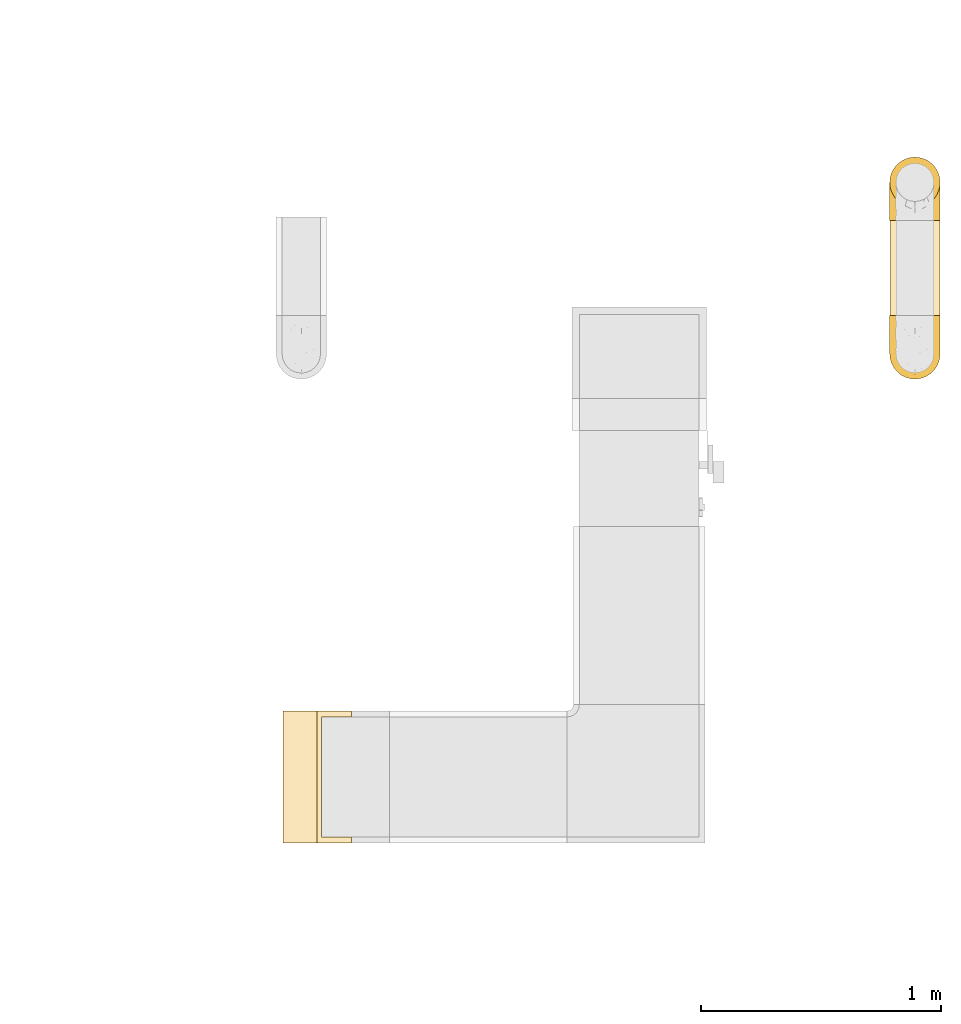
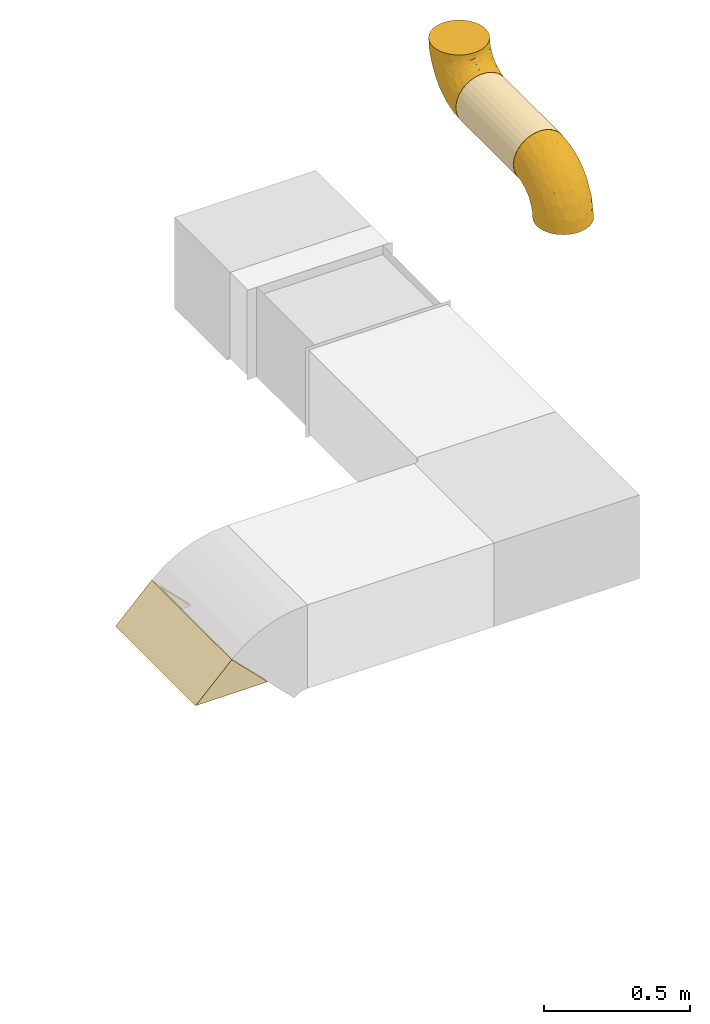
# One storey, part 4 of 14: 4 coverings.
"""IFC2X3 building model written with IfcOpenShell, lengths in millimetres."""

from ifc_helpers import new_model, entity, si_unit, converted_unit, derived_unit, direction, frame, origin_with_axes, origin_2d_with_axis, place, context, subcontext, project, spatial, hollow_circle, extrude, open_shell, faceted_brep, surface_model, source, transform, mapped, element, save


model = new_model("IFC2X3")

# Units and contexts
model_context = context("Model", 3, precision=0.01, world=frame((0.0, 4.29681676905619e-09, 0.0)), true_north=direction((4.01073788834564e-13, 1.0)))
plan_context = context("Plan", 3, precision=0.01, world=frame((0.0, 4.29681676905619e-09, 0.0)), true_north=direction((4.01073788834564e-13, 1.0)))
body_context = subcontext(model_context, "Body", "Model", "MODEL_VIEW")
ifc_project = project(units=[converted_unit("PLANEANGLEUNIT", "DEGREE", entity("IfcPositiveLengthMeasure", 0.0174532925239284), si_unit("PLANEANGLEUNIT", "RADIAN"), dimensions=[0, 0, 0, 0, 0, 0, 0]), si_unit("AREAUNIT", "SQUARE_METRE"), si_unit("LENGTHUNIT", "METRE", prefix="MILLI"), si_unit("MASSUNIT", "GRAM", prefix="KILO"), si_unit("POWERUNIT", "WATT"), si_unit("PRESSUREUNIT", "PASCAL", prefix="KILO"), si_unit("FORCEUNIT", "NEWTON", prefix="KILO"), si_unit("ELECTRICVOLTAGEUNIT", "VOLT"), si_unit("ELECTRICCURRENTUNIT", "AMPERE"), si_unit("THERMODYNAMICTEMPERATUREUNIT", "DEGREE_CELSIUS"), si_unit("TIMEUNIT", "SECOND"), si_unit("VOLUMEUNIT", "CUBIC_METRE"), derived_unit("LINEARVELOCITYUNIT", [(si_unit("LENGTHUNIT", "METRE"), 1), (si_unit("TIMEUNIT", "SECOND"), -1)]), derived_unit("VOLUMETRICFLOWRATEUNIT", [(si_unit("VOLUMEUNIT", "CUBIC_METRE"), 1), (si_unit("TIMEUNIT", "SECOND"), -1)]), derived_unit("THERMALTRANSMITTANCEUNIT", [(si_unit("POWERUNIT", "WATT"), 1), (si_unit("THERMODYNAMICTEMPERATUREUNIT", "KELVIN"), -1), (si_unit("AREAUNIT", "SQUARE_METRE"), -1)]), derived_unit("SOUNDPRESSUREUNIT", [(si_unit("PRESSUREUNIT", "PASCAL"), 1)])], contexts=[model_context, plan_context])

# Site, building, storey
site_placement = place(None, frame((0.0, -4.29681676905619e-09, 0.0), z_axis=(0.0, 0.0, 1.0), x_axis=(1.0, 0.0, 0.0)))
site = spatial("IfcSite", under=ifc_project, at=site_placement, CompositionType="ELEMENT")
building_placement = place(site_placement, frame((0.0, 4.29681676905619e-09, 0.0), z_axis=(0.0, 0.0, 1.0), x_axis=(1.0, 0.0, 0.0)))
building = spatial("IfcBuilding", under=site, at=building_placement, Name="mc-building", CompositionType="ELEMENT")
storey_placement = place(building_placement, frame((0.0, 0.0, 205200.0), z_axis=(0.0, 0.0, 1.0), x_axis=(1.0, 0.0, 0.0)))
storey = spatial("IfcBuildingStorey", under=building, at=storey_placement, Name="Nivå D + 1,2 m", CompositionType="ELEMENT", Elevation=205200.0)

# Coverings
shared_shape_1 = source(origin_with_axes(), body_context, "Body", "SweptSolid", [
    extrude(hollow_circle(Radius=105.0, WallThickness=25.0, at=origin_2d_with_axis()), frame((0.0, 0.0, 0.0), z_axis=(1.0, 0.0, 0.0), x_axis=(0.0, 1.0, 0.0)), (0.0, 0.0, 1.0), 395.0),
])
covering_1_placement = place(storey_placement, frame((348291.86984, 465751.0, 4050.0), z_axis=(0.0, 0.0, 1.0), x_axis=(0.0, -1.0, 0.0)))
element("IfcCovering", 1, at=covering_1_placement, inside=storey, Name="B-EI60", PredefinedType="INSULATION", context=body_context, shape_type="MappedRepresentation", body=[
    mapped(shared_shape_1, transform((0.0, 0.0, 0.0), scale=1.0)),
])
shared_shape_2 = source(origin_with_axes(), body_context, "Body", "SurfaceModel", [
    surface_model("IfcShellBasedSurfaceModel", [(80.43282, 160.0, 67.4949), (90.93096, 160.0, 52.50296), (98.66637, 160.0, 35.91583), (-80.43616, 160.0, 67.49092), (-67.4949, 160.0, 80.43282), (-90.93355, 160.0, 52.49848), (-80.43282, 160.0, -67.4949), (-90.93096, 160.0, -52.50296), (-98.66637, 160.0, -35.91583), (-160.0, 74.24621, -74.24621), (-160.0, 105.0, 0.0), (-160.0, 101.42222, -27.176), (-160.0, 90.93267, -52.5), (-160.0, 101.42222, 27.176), (-160.0, 74.24621, 74.24621), (-160.0, 90.93267, 52.5), (-160.0, 27.176, 101.42222), (-160.0, 52.5, 90.93267), (-160.0, -74.24621, 74.24621), (-160.0, -101.42222, 27.176), (-160.0, -90.93267, 52.5), (-86.77939, -90.83203, 27.62615), (-108.30107, -99.9081, 0.0), (-58.58889, -84.82808, 0.0), (-160.0, -105.0, 0.0), (31.61963, 0.61451, 55.3243), (2.15123, -40.14693, 38.7491), (41.01717, -4.0081, 33.72929), (68.782, 58.01341, 53.26876), (42.5007, 35.24486, 70.46355), (10.42896, -40.73723, 18.66524), (-160.0, -52.5, 90.93267), (-122.57202, -63.94157, 80.80593), (-12.77389, -60.33945, 0.0), (27.3833, -27.3833, 0.0), (53.3012, 81.39518, 80.57607), (25.18839, 41.51415, 86.2733), (-27.85296, -66.69793, 23.21289), (-3.94869, 33.1736, 96.6264), (-10.61338, 0.88896, 87.36154), (60.33945, 12.77389, 0.0), (-33.30447, 2.22709, 96.08218), (-64.8935, -33.44615, 89.09515), (-75.06039, -54.87531, 77.30635), (-102.05161, -79.23207, 60.02596), (90.18061, 102.94776, 41.14349), (76.18076, 47.95142, 27.21409), (24.77586, 93.9877, 98.5575), (-111.65311, -40.18811, 94.41504), (-160.0, -27.176, 101.42222), (-46.86291, 46.86291, 105.0), (-80.0, 21.43593, 105.0), (-46.86575, 17.66698, 102.70805), (52.49848, 160.0, 90.93355), (35.91101, 160.0, 98.66813), (-115.56379, -21.49709, 101.50699), (-160.0, 0.0, 105.0), (-71.43118, -14.86908, 98.62859), (-85.76355, -0.84717, 103.58961), (103.40402, 160.0, 18.23758), (98.49705, 112.79001, 21.51201), (99.9081, 108.30107, 0.0), (84.82808, 58.58889, 0.0), (1.99266, 84.09643, 103.28614), (18.23247, 160.0, 103.40492), (-5.45187, 118.58896, 105.0), (72.62756, 112.75538, 70.97794), (-21.43593, 80.0, 105.0), (-21.61029, 49.95505, 103.64574), (105.0, 160.0, 0.0), (67.49092, 160.0, 80.43616), (0.0, 160.0, 105.0), (-118.58896, 5.45187, 105.0), (-14.25832, -38.68897, 59.65143), (7.92185, -5.45618, 72.72142), (-31.70628, -31.57649, 77.75213), (-43.24772, -66.17703, 45.69984), (-53.99583, -59.83203, 62.92615), (-55.21256, 111.13303, 95.16076), (-53.92063, 78.60244, 101.6555), (-37.39256, 100.94977, 102.24061), (-133.54849, 22.33017, 103.11394), (-106.05872, 29.7742, 103.25842), (-75.82706, 91.25175, 91.60397), (-82.40746, 110.91109, 79.85017), (-99.06949, 99.66039, 74.24437), (-124.15138, 116.31833, 17.73447), (-112.76504, 127.27364, 22.61524), (-121.10912, 121.10912, 0.0), (-51.40632, 135.85797, 92.9943), (-31.12581, 127.8665, 101.42111), (-81.01995, 44.58495, 103.04874), (-87.10885, 65.0064, 96.97359), (-122.97407, 46.0461, 97.00735), (-142.68086, 105.80511, 19.85839), (-143.64683, 99.16706, 40.18176), (-108.8908, 118.22504, 46.80649), (-113.70433, 104.50778, 57.68977), (-146.57956, 84.48537, 63.91995), (-18.23758, 160.0, 103.40402), (-137.26493, 66.64855, 83.3021), (-132.22606, 109.2931, 24.15031), (-122.6803, 110.7398, 37.17389), (-79.37771, 130.78625, 74.24437), (-111.68491, 77.36844, 83.0246), (-35.91583, 160.0, 98.66637), (-94.70904, 145.7871, 48.39929), (-52.50296, 160.0, 90.93096), (-131.41269, 102.22856, 43.55039), (-147.89083, 107.40866, 0.0), (-94.20848, 122.13386, 62.88018), (-103.11738, 146.01079, 27.17514), (-98.66813, 160.0, 35.91101), (-101.03955, 133.02761, 44.37358), (-103.40492, 160.0, 18.23247), (-107.09331, 149.4762, 0.0), (-130.47673, 89.21198, 63.91994), (-94.20008, 84.39492, 86.32712), (-138.95241, 109.18662, 0.0), (-130.03077, 115.14788, 0.0), (-106.86958, 135.94857, 26.19801), (-115.14788, 130.03077, 0.0), (-105.0, 160.0, 0.0), (-109.18662, 138.95241, 0.0), (-80.0, 21.43593, -105.0), (-118.58896, 5.45187, -105.0), (-106.05871, 29.7742, -103.25842), (-142.68087, 105.80511, -19.85836), (-101.03904, 133.02349, -44.37826), (-94.70587, 145.78416, -48.40647), (-94.20354, 122.1371, -62.88374), (-108.01098, 136.94827, -19.73025), (-112.76496, 127.2737, -22.61538), (-143.64666, 99.16709, -40.18176), (-131.41273, 102.22882, -43.54985), (-130.47615, 89.21221, -63.91995), (-146.57923, 84.48543, -63.91995), (-132.2261, 109.29318, -24.14995), (-111.68602, 77.36807, -83.02442), (-137.26493, 66.64855, -83.3021), (-37.38664, 100.94789, -102.24204), (-5.45187, 118.58896, -105.0), (-21.43593, 80.0, -105.0), (-160.0, 0.0, -105.0), (-160.0, 27.176, -101.42222), (-133.54849, 22.33017, -103.11394), (-124.15141, 116.31835, -17.73428), (-122.68042, 110.73988, -37.17355), (-160.0, 52.5, -90.93267), (-122.97407, 46.0461, -97.00735), (-51.39934, 135.85922, -92.99772), (-67.49092, 160.0, -80.43616), (-52.49848, 160.0, -90.93355), (-55.20633, 111.13534, -95.16294), (-53.92062, 78.60243, -101.65551), (-75.82964, 91.25637, -91.60121), (-103.40402, 160.0, -18.23758), (-108.89358, 118.22523, -46.80193), (-79.37456, 130.78413, -74.24805), (-103.11642, 146.00912, -27.18012), (-81.02084, 44.58327, -103.04892), (-46.86291, 46.86291, -105.0), (-35.91101, 160.0, -98.66813), (-31.12039, 127.8676, -101.42244), (-87.10739, 65.0045, -96.97458), (0.0, 160.0, -105.0), (-18.23247, 160.0, -103.40492), (-82.40976, 110.91196, -79.84811), (-113.70391, 104.50625, -57.69198), (-93.56062, 81.99506, -87.83314), (-99.06686, 99.6578, -74.24805), (-102.05188, -79.23212, -60.02598), (-160.0, -90.93267, -52.5), (-160.0, -74.24621, -74.24621), (8.88008, 77.26458, -101.1819), (44.65348, 115.34453, -92.61664), (34.35065, 68.12236, -89.45891), (52.50296, 160.0, -90.93096), (67.4949, 160.0, -80.43282), (-80.19877, -5.90357, -102.19719), (-43.05681, 22.33841, -102.95383), (-33.05933, 3.8334, -96.55755), (-118.07644, -21.90722, -101.55495), (-160.0, -27.176, -101.42222), (-160.0, -13.588, -103.21111), (-122.57254, -63.94161, -80.80597), (-10.50689, 37.73529, -99.63838), (5.93859, 20.05279, -88.13417), (-86.77943, -90.83197, -27.62637), (-160.0, -101.42222, -27.176), (80.43616, 160.0, -67.49092), (71.01151, 102.52435, -70.23213), (76.18354, 47.95612, -27.21221), (-77.25171, -31.98183, -92.83606), (-75.06127, -54.87558, -77.30642), (-30.31175, -20.21608, -84.71956), (7.93056, -5.45076, -72.71893), (48.10796, 49.71741, -72.94688), (39.19137, 12.40182, -57.40861), (-43.2479, -66.17685, -45.70035), (-0.47558, -46.42299, -29.12353), (-40.64699, -73.20115, -25.04519), (-160.0, -52.5, -90.93267), (18.23758, 160.0, -103.40402), (-116.58747, -47.44669, -91.25341), (41.01729, -4.00822, -33.72879), (35.91583, 160.0, -98.66637), (90.18288, 102.94926, -41.13909), (-29.30622, -39.54144, -69.69707), (68.7858, 58.01643, -53.26496), (98.4986, 112.79609, -21.50993), (90.93355, 160.0, -52.49848), (98.66813, 160.0, -35.91101), (0.80626, -32.00037, -53.33542), (103.40492, 160.0, -18.23247), (-60.25635, -63.13556, -62.44399)], [open_shell([[[0, 1, 2]], [[3, 4, 5]], [[6, 7, 8]], [[9, 10, 11]], [[9, 11, 12]], [[13, 14, 15]], [[13, 10, 14]], [[14, 16, 17]], [[18, 19, 20]], [[21, 22, 23]], [[22, 19, 24]], [[25, 26, 27]], [[28, 29, 25]], [[26, 30, 27]], [[31, 18, 32]], [[33, 34, 30]], [[35, 36, 29]], [[21, 20, 19]], [[33, 37, 23]], [[36, 38, 39]], [[27, 34, 40]], [[41, 42, 39]], [[43, 32, 44]], [[45, 28, 46]], [[47, 38, 36]], [[31, 48, 49]], [[50, 51, 52]], [[47, 53, 54]], [[49, 55, 56]], [[48, 42, 57]], [[57, 58, 55]], [[58, 57, 52]], [[59, 60, 61]], [[62, 46, 40]], [[63, 64, 65]], [[53, 47, 35]], [[20, 44, 18]], [[2, 1, 45]], [[45, 1, 66]], [[38, 47, 63]], [[45, 60, 2]], [[45, 66, 28]], [[0, 66, 1]], [[67, 50, 68]], [[61, 69, 59]], [[46, 62, 60]], [[70, 53, 66]], [[65, 64, 71]], [[47, 64, 63]], [[72, 58, 51]], [[73, 74, 75]], [[48, 57, 55]], [[67, 63, 65]], [[38, 63, 68]], [[68, 50, 52]], [[19, 22, 21]], [[54, 64, 47]], [[41, 52, 57]], [[0, 70, 66]], [[66, 53, 35]], [[21, 76, 44]], [[35, 28, 66]], [[61, 60, 62]], [[28, 27, 46]], [[75, 43, 77]], [[40, 46, 27]], [[21, 44, 20]], [[77, 44, 76]], [[32, 48, 31]], [[42, 48, 43]], [[43, 75, 42]], [[75, 39, 42]], [[73, 77, 76]], [[39, 75, 74]], [[26, 73, 76]], [[73, 26, 25]], [[74, 29, 36]], [[39, 38, 41]], [[74, 36, 39]], [[47, 36, 35]], [[37, 26, 76]], [[26, 37, 30]], [[76, 21, 37]], [[23, 37, 21]], [[25, 29, 74]], [[28, 35, 29]], [[73, 25, 74]], [[28, 25, 27]], [[33, 30, 37]], [[27, 30, 34]], [[75, 77, 73]], [[44, 77, 43]], [[52, 41, 38]], [[42, 41, 57]], [[51, 58, 52]], [[72, 56, 55]], [[55, 58, 72]], [[48, 55, 49]], [[38, 68, 52]], [[67, 68, 63]], [[2, 60, 59]], [[46, 60, 45]], [[44, 32, 18]], [[48, 32, 43]], [[78, 79, 80]], [[56, 72, 81]], [[51, 82, 72]], [[83, 84, 85]], [[86, 87, 88]], [[89, 78, 90]], [[82, 91, 92]], [[93, 82, 92]], [[79, 50, 67]], [[94, 13, 95]], [[85, 96, 97]], [[82, 81, 72]], [[98, 95, 15]], [[95, 13, 15]], [[17, 16, 93]], [[65, 99, 90]], [[15, 14, 98]], [[100, 17, 93]], [[86, 101, 102]], [[4, 3, 103]], [[104, 93, 92]], [[89, 90, 105]], [[14, 17, 100]], [[99, 105, 90]], [[5, 106, 3]], [[89, 4, 103]], [[105, 107, 89]], [[71, 99, 65]], [[108, 101, 94]], [[13, 94, 109]], [[110, 84, 103]], [[111, 106, 112]], [[3, 106, 103]], [[90, 78, 80]], [[87, 86, 102]], [[106, 111, 113]], [[83, 92, 79]], [[114, 115, 111]], [[78, 84, 83]], [[100, 104, 116]], [[112, 114, 111]], [[108, 102, 101]], [[97, 104, 85]], [[83, 79, 78]], [[90, 80, 65]], [[91, 79, 92]], [[87, 96, 113]], [[98, 100, 116]], [[93, 104, 100]], [[117, 92, 83]], [[84, 78, 103]], [[104, 117, 85]], [[109, 94, 118]], [[109, 10, 13]], [[86, 88, 119]], [[119, 118, 101]], [[94, 101, 118]], [[102, 96, 87]], [[111, 120, 113]], [[120, 121, 87]], [[119, 101, 86]], [[108, 94, 95]], [[95, 116, 108]], [[97, 108, 116]], [[97, 96, 102]], [[85, 84, 110]], [[108, 97, 102]], [[104, 97, 116]], [[4, 89, 107]], [[103, 78, 89]], [[106, 113, 110]], [[112, 106, 5]], [[82, 51, 91]], [[81, 93, 16]], [[51, 50, 91]], [[79, 91, 50]], [[93, 81, 82]], [[56, 81, 16]], [[100, 98, 14]], [[95, 98, 116]], [[79, 67, 80]], [[65, 80, 67]], [[115, 114, 122]], [[115, 123, 111]], [[106, 110, 103]], [[113, 96, 110]], [[85, 110, 96]], [[92, 117, 104]], [[83, 85, 117]], [[123, 120, 111]], [[87, 113, 120]], [[121, 120, 123]], [[121, 88, 87]], [[124, 125, 126]], [[118, 127, 109]], [[128, 129, 130]], [[131, 128, 132]], [[133, 127, 134]], [[133, 135, 136]], [[137, 118, 119]], [[138, 139, 135]], [[140, 141, 142]], [[9, 12, 136]], [[143, 144, 145]], [[146, 132, 147]], [[148, 9, 139]], [[144, 148, 149]], [[150, 151, 152]], [[126, 145, 149]], [[153, 154, 155]], [[115, 122, 156]], [[149, 139, 138]], [[157, 147, 132]], [[130, 129, 158]], [[136, 139, 9]], [[129, 128, 159]], [[7, 129, 8]], [[126, 160, 124]], [[6, 151, 158]], [[129, 6, 158]], [[115, 156, 159]], [[154, 142, 161]], [[157, 132, 128]], [[127, 137, 134]], [[152, 162, 150]], [[140, 154, 153]], [[153, 163, 140]], [[162, 163, 150]], [[160, 126, 164]], [[163, 153, 150]], [[133, 12, 11]], [[165, 141, 166]], [[11, 109, 127]], [[166, 141, 163]], [[166, 163, 162]], [[153, 155, 167]], [[148, 139, 149]], [[160, 154, 161]], [[159, 156, 8]], [[155, 154, 164]], [[168, 147, 157]], [[168, 138, 135]], [[169, 170, 155]], [[149, 138, 164]], [[169, 155, 164]], [[167, 155, 170]], [[11, 10, 109]], [[146, 137, 119]], [[11, 127, 133]], [[146, 88, 132]], [[88, 146, 119]], [[137, 146, 147]], [[132, 88, 121]], [[131, 123, 115]], [[137, 147, 134]], [[137, 127, 118]], [[168, 134, 147]], [[135, 133, 134]], [[130, 158, 167]], [[168, 157, 170]], [[138, 168, 170]], [[134, 168, 135]], [[8, 129, 159]], [[129, 7, 6]], [[153, 158, 150]], [[151, 150, 158]], [[145, 126, 125]], [[164, 126, 149]], [[154, 160, 164]], [[161, 124, 160]], [[143, 145, 125]], [[149, 145, 144]], [[133, 136, 12]], [[139, 136, 135]], [[141, 140, 163]], [[142, 154, 140]], [[131, 115, 159]], [[164, 138, 169]], [[170, 169, 138]], [[130, 170, 157]], [[153, 167, 158]], [[170, 130, 167]], [[157, 128, 130]], [[128, 131, 159]], [[131, 121, 123]], [[121, 131, 132]], [[171, 172, 173]], [[174, 175, 176]], [[175, 177, 178]], [[179, 180, 181]], [[182, 183, 184]], [[173, 185, 171]], [[174, 186, 142]], [[181, 180, 186]], [[176, 187, 186]], [[124, 161, 180]], [[172, 188, 189]], [[178, 190, 191]], [[22, 24, 189]], [[40, 192, 62]], [[179, 193, 182]], [[171, 188, 172]], [[194, 193, 195]], [[196, 197, 198]], [[23, 22, 188]], [[199, 200, 201]], [[187, 196, 195]], [[202, 185, 173]], [[188, 199, 201]], [[203, 174, 141]], [[174, 142, 141]], [[194, 185, 204]], [[192, 40, 205]], [[124, 179, 125]], [[141, 165, 203]], [[203, 206, 175]], [[175, 178, 191]], [[181, 195, 193]], [[190, 207, 191]], [[204, 183, 182]], [[194, 195, 208]], [[174, 203, 175]], [[184, 143, 125]], [[207, 192, 209]], [[192, 207, 210]], [[34, 205, 40]], [[207, 211, 212]], [[199, 213, 200]], [[191, 197, 176]], [[211, 207, 190]], [[61, 210, 214]], [[210, 62, 192]], [[69, 61, 214]], [[198, 213, 196]], [[210, 212, 214]], [[209, 191, 207]], [[197, 191, 209]], [[193, 179, 181]], [[191, 176, 175]], [[177, 175, 206]], [[22, 189, 188]], [[200, 34, 33]], [[205, 209, 192]], [[208, 215, 194]], [[188, 171, 199]], [[198, 197, 209]], [[187, 197, 196]], [[209, 205, 198]], [[205, 200, 213]], [[205, 213, 198]], [[215, 208, 213]], [[34, 200, 205]], [[33, 23, 201]], [[187, 195, 181]], [[195, 196, 208]], [[187, 181, 186]], [[187, 176, 197]], [[196, 213, 208]], [[215, 213, 199]], [[199, 171, 215]], [[171, 194, 215]], [[124, 180, 179]], [[180, 161, 142]], [[142, 186, 180]], [[186, 174, 176]], [[33, 201, 200]], [[23, 188, 201]], [[210, 61, 62]], [[212, 210, 207]], [[204, 185, 202]], [[171, 185, 194]], [[183, 204, 202]], [[194, 204, 193]], [[125, 179, 182]], [[184, 125, 182]], [[204, 182, 193]], [[54, 53, 64]], [[64, 99, 71]], [[64, 53, 0]], [[2, 59, 0]], [[64, 0, 99]], [[53, 70, 0]], [[99, 0, 212]], [[105, 99, 4]], [[4, 107, 105]], [[99, 112, 4]], [[112, 122, 114]], [[5, 4, 112]], [[99, 212, 112]], [[112, 156, 122]], [[0, 59, 69]], [[69, 214, 212]], [[112, 212, 156]], [[211, 156, 212]], [[190, 178, 206]], [[206, 156, 211]], [[206, 178, 177]], [[206, 211, 190]], [[206, 203, 156]], [[8, 156, 6]], [[6, 156, 162]], [[165, 166, 162]], [[6, 152, 151]], [[6, 162, 152]], [[156, 203, 162]], [[203, 165, 162]], [[212, 0, 69]], [[10, 148, 16]], [[148, 10, 9]], [[148, 49, 16]], [[10, 16, 14]], [[16, 49, 56]], [[148, 144, 143]], [[183, 49, 143]], [[189, 183, 202]], [[172, 189, 202]], [[172, 202, 173]], [[49, 183, 189]], [[31, 19, 18]], [[24, 31, 49]], [[19, 31, 24]], [[49, 189, 24]], [[143, 49, 148]]])]),
])
for number, where, z_axis, x_axis in (
    (2, (348291.86984, 465911.0, 4050.0), (1.0, 0.0, 0.0), (0.0, 1.0, 0.0)),
    (3, (348291.86984, 465196.0, 4050.0), (1.0, 0.0, 0.0), (0.0, -1.0, 0.0)),
):
    element("IfcCovering", number, at=place(storey_placement, frame(where, z_axis=z_axis, x_axis=x_axis)), inside=storey, Name="B-EI60", PredefinedType="INSULATION", context=body_context, shape_type="MappedRepresentation", body=[
        mapped(shared_shape_2, transform((0.0, 0.0, 0.0), scale=1.0)),
    ])
covering_2_placement = place(storey_placement, frame((345648.34717, 463433.0, 3743.22330000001), z_axis=(-0.707106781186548, 0.0, 0.707106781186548), x_axis=(0.707106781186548, 0.0, 0.707106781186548)))
element("IfcCovering", 4, at=covering_2_placement, inside=storey, Name="T=25mm", PredefinedType="INSULATION", context=body_context, shape_type="Brep", body=[
    faceted_brep([(213.137091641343, -250.0, 150.0), (390.4, -250.0, -27.2629083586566), (390.4, -250.0, 150.0), (213.137091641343, 250.0, 150.0), (390.4, 250.0, 150.0), (390.4, 250.0, -27.2629083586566), (188.137091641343, 275.0, 175.0), (390.4, 275.0, -27.2629083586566), (390.4, 275.0, 175.0), (188.137091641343, -275.0, 175.0), (390.4, -275.0, 175.0), (390.4, -275.0, -27.2629083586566)], [[[0, 1, 2]], [[3, 0, 2, 4]], [[5, 3, 4]], [[6, 7, 8]], [[9, 6, 8, 10]], [[11, 9, 10]], [[7, 5, 4, 2, 1, 11, 10, 8]], [[3, 5, 7, 6, 9, 11, 1, 0]]], orient=[[False], [False], [False], [False], [False], [False], [False], [False]]),
])

save(model, "model.ifc")
